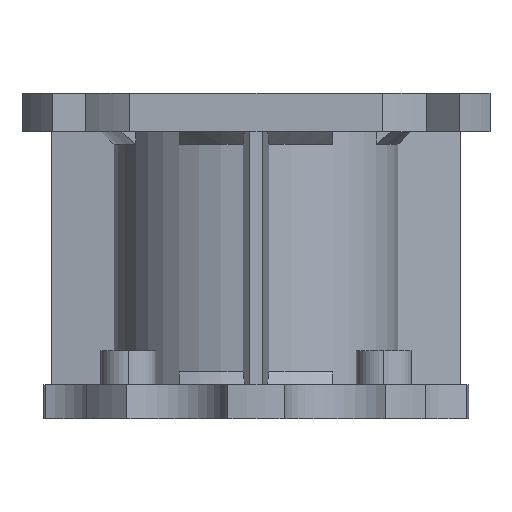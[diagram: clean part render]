
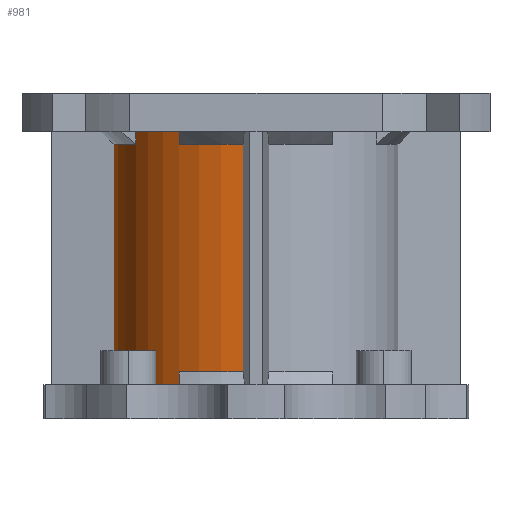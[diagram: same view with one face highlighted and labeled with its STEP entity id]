
A CAD part, left-side view. The second image highlights one B-rep face of the part: STEP entity #981.
In plain terms, the highlighted cylindrical face has radius 33.5 mm (diameter 67 mm), a partial arc.
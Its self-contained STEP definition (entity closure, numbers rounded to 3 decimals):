
#981=ADVANCED_FACE('',(#1097),#2907,.T.);
#1097=FACE_OUTER_BOUND('',#1219,.T.);
#1219=EDGE_LOOP('',(#1499,#1500,#1501,#1502,#1503,#1504,#1505,#1506,#1507,
#1508,#1509,#1510));
#1499=ORIENTED_EDGE('',*,*,#2012,.F.);
#1500=ORIENTED_EDGE('',*,*,#2015,.T.);
#1501=ORIENTED_EDGE('',*,*,#2016,.T.);
#1502=ORIENTED_EDGE('',*,*,#1988,.T.);
#1503=ORIENTED_EDGE('',*,*,#2017,.F.);
#1504=ORIENTED_EDGE('',*,*,#1979,.T.);
#1505=ORIENTED_EDGE('',*,*,#2010,.F.);
#1506=ORIENTED_EDGE('',*,*,#2018,.T.);
#1507=ORIENTED_EDGE('',*,*,#2005,.F.);
#1508=ORIENTED_EDGE('',*,*,#1982,.T.);
#1509=ORIENTED_EDGE('',*,*,#2019,.F.);
#1510=ORIENTED_EDGE('',*,*,#1985,.T.);
#1979=EDGE_CURVE('',#2735,#2736,#2549,.T.);
#1982=EDGE_CURVE('',#2738,#2739,#2552,.T.);
#1985=EDGE_CURVE('',#2741,#2742,#2555,.T.);
#1988=EDGE_CURVE('',#2744,#2745,#2558,.T.);
#2005=EDGE_CURVE('',#2738,#2824,#2259,.T.);
#2010=EDGE_CURVE('',#2826,#2736,#2264,.T.);
#2012=EDGE_CURVE('',#2827,#2742,#2266,.T.);
#2015=EDGE_CURVE('',#2827,#2829,#2573,.T.);
#2016=EDGE_CURVE('',#2829,#2744,#2269,.T.);
#2017=EDGE_CURVE('',#2735,#2745,#2270,.T.);
#2018=EDGE_CURVE('',#2826,#2824,#2574,.T.);
#2019=EDGE_CURVE('',#2741,#2739,#2271,.T.);
#2259=TRIMMED_CURVE($,#2387,(#4579),(#4580),.T.,.CARTESIAN.);
#2264=TRIMMED_CURVE($,#2392,(#4594),(#4595),.T.,.CARTESIAN.);
#2266=TRIMMED_CURVE($,#2394,(#4600),(#4601),.T.,.CARTESIAN.);
#2269=TRIMMED_CURVE($,#2397,(#4611),(#4612),.T.,.CARTESIAN.);
#2270=TRIMMED_CURVE($,#2398,(#4614),(#4615),.T.,.CARTESIAN.);
#2271=TRIMMED_CURVE($,#2399,(#4619),(#4620),.T.,.CARTESIAN.);
#2387=CIRCLE('',#3298,33.5);
#2392=CIRCLE('',#3303,33.5);
#2394=CIRCLE('',#3305,33.5);
#2397=CIRCLE('',#3308,33.5);
#2398=CIRCLE('',#3309,33.5);
#2399=CIRCLE('',#3310,33.5);
#2549=B_SPLINE_CURVE_WITH_KNOTS('',1,(#4516,#4517),.UNSPECIFIED.,.F.,.F.,
(2,2),(-3.,0.),.UNSPECIFIED.);
#2552=B_SPLINE_CURVE_WITH_KNOTS('',1,(#4524,#4525),.UNSPECIFIED.,.F.,.F.,
(2,2),(-3.,0.),.UNSPECIFIED.);
#2555=B_SPLINE_CURVE_WITH_KNOTS('',1,(#4532,#4533),.UNSPECIFIED.,.F.,.F.,
(2,2),(-3.,0.),.UNSPECIFIED.);
#2558=B_SPLINE_CURVE_WITH_KNOTS('',1,(#4540,#4541),.UNSPECIFIED.,.F.,.F.,
(2,2),(-3.,0.),.UNSPECIFIED.);
#2573=B_SPLINE_CURVE_WITH_KNOTS('',1,(#4608,#4609),.UNSPECIFIED.,.F.,.F.,
(2,2),(0.,53.5),.UNSPECIFIED.);
#2574=B_SPLINE_CURVE_WITH_KNOTS('',1,(#4616,#4617),.UNSPECIFIED.,.F.,.F.,
(2,2),(0.,53.5),.UNSPECIFIED.);
#2735=VERTEX_POINT('',#4248);
#2736=VERTEX_POINT('',#4249);
#2738=VERTEX_POINT('',#4251);
#2739=VERTEX_POINT('',#4252);
#2741=VERTEX_POINT('',#4254);
#2742=VERTEX_POINT('',#4255);
#2744=VERTEX_POINT('',#4257);
#2745=VERTEX_POINT('',#4258);
#2824=VERTEX_POINT('',#4337);
#2826=VERTEX_POINT('',#4339);
#2827=VERTEX_POINT('',#4340);
#2829=VERTEX_POINT('',#4342);
#2907=CYLINDRICAL_SURFACE('',#3218,33.5);
#3218=AXIS2_PLACEMENT_3D('',#3914,#3448,$);
#3298=AXIS2_PLACEMENT_3D($,#4578,#3530,#3531);
#3303=AXIS2_PLACEMENT_3D($,#4593,#3540,#3541);
#3305=AXIS2_PLACEMENT_3D($,#4599,#3544,#3545);
#3308=AXIS2_PLACEMENT_3D($,#4610,#3550,#3551);
#3309=AXIS2_PLACEMENT_3D($,#4613,#3552,#3553);
#3310=AXIS2_PLACEMENT_3D($,#4618,#3554,#3555);
#3448=DIRECTION('',(1.,0.,0.));
#3530=DIRECTION('',(1.,0.,0.));
#3531=DIRECTION('',(0.,-0.537,-0.843));
#3540=DIRECTION('',(-1.,0.,0.));
#3541=DIRECTION('',(0.,-0.09,-0.996));
#3544=DIRECTION('',(1.,0.,0.));
#3545=DIRECTION('',(0.,-0.996,-0.09));
#3550=DIRECTION('',(1.,0.,0.));
#3551=DIRECTION('',(0.,-0.996,-0.09));
#3552=DIRECTION('',(-1.,0.,0.));
#3553=DIRECTION('',(0.,-0.537,-0.843));
#3554=DIRECTION('',(1.,0.,0.));
#3555=DIRECTION('',(0.,-0.843,-0.537));
#3914=CARTESIAN_POINT('',(37.75,0.,0.));
#4248=CARTESIAN_POINT('',(8.,-18.,-28.253));
#4249=CARTESIAN_POINT('',(11.,-18.,-28.253));
#4251=CARTESIAN_POINT('',(64.5,-18.,-28.253));
#4252=CARTESIAN_POINT('',(67.5,-18.,-28.253));
#4254=CARTESIAN_POINT('',(67.5,-28.253,-18.));
#4255=CARTESIAN_POINT('',(64.5,-28.253,-18.));
#4257=CARTESIAN_POINT('',(11.,-28.253,-18.));
#4258=CARTESIAN_POINT('',(8.,-28.253,-18.));
#4337=CARTESIAN_POINT('',(64.5,-3.,-33.365));
#4339=CARTESIAN_POINT('',(11.,-3.,-33.365));
#4340=CARTESIAN_POINT('',(64.5,-33.365,-3.));
#4342=CARTESIAN_POINT('',(11.,-33.365,-3.));
#4516=CARTESIAN_POINT('',(8.,-18.,-28.253));
#4517=CARTESIAN_POINT('',(11.,-18.,-28.253));
#4524=CARTESIAN_POINT('',(64.5,-18.,-28.253));
#4525=CARTESIAN_POINT('',(67.5,-18.,-28.253));
#4532=CARTESIAN_POINT('',(67.5,-28.253,-18.));
#4533=CARTESIAN_POINT('',(64.5,-28.253,-18.));
#4540=CARTESIAN_POINT('',(11.,-28.253,-18.));
#4541=CARTESIAN_POINT('',(8.,-28.253,-18.));
#4578=CARTESIAN_POINT('',(64.5,0.,0.));
#4579=CARTESIAN_POINT('',(64.5,-18.,-28.253));
#4580=CARTESIAN_POINT('',(64.5,-3.,-33.365));
#4593=CARTESIAN_POINT('',(11.,0.,0.));
#4594=CARTESIAN_POINT('',(11.,-3.,-33.365));
#4595=CARTESIAN_POINT('',(11.,-18.,-28.253));
#4599=CARTESIAN_POINT('',(64.5,0.,0.));
#4600=CARTESIAN_POINT('',(64.5,-33.365,-3.));
#4601=CARTESIAN_POINT('',(64.5,-28.253,-18.));
#4608=CARTESIAN_POINT('',(64.5,-33.365,-3.));
#4609=CARTESIAN_POINT('',(11.,-33.365,-3.));
#4610=CARTESIAN_POINT('',(11.,0.,0.));
#4611=CARTESIAN_POINT('',(11.,-33.365,-3.));
#4612=CARTESIAN_POINT('',(11.,-28.253,-18.));
#4613=CARTESIAN_POINT('',(8.,0.,0.));
#4614=CARTESIAN_POINT('',(8.,-18.,-28.253));
#4615=CARTESIAN_POINT('',(8.,-28.253,-18.));
#4616=CARTESIAN_POINT('',(11.,-3.,-33.365));
#4617=CARTESIAN_POINT('',(64.5,-3.,-33.365));
#4618=CARTESIAN_POINT('',(67.5,0.,0.));
#4619=CARTESIAN_POINT('',(67.5,-28.253,-18.));
#4620=CARTESIAN_POINT('',(67.5,-18.,-28.253));
